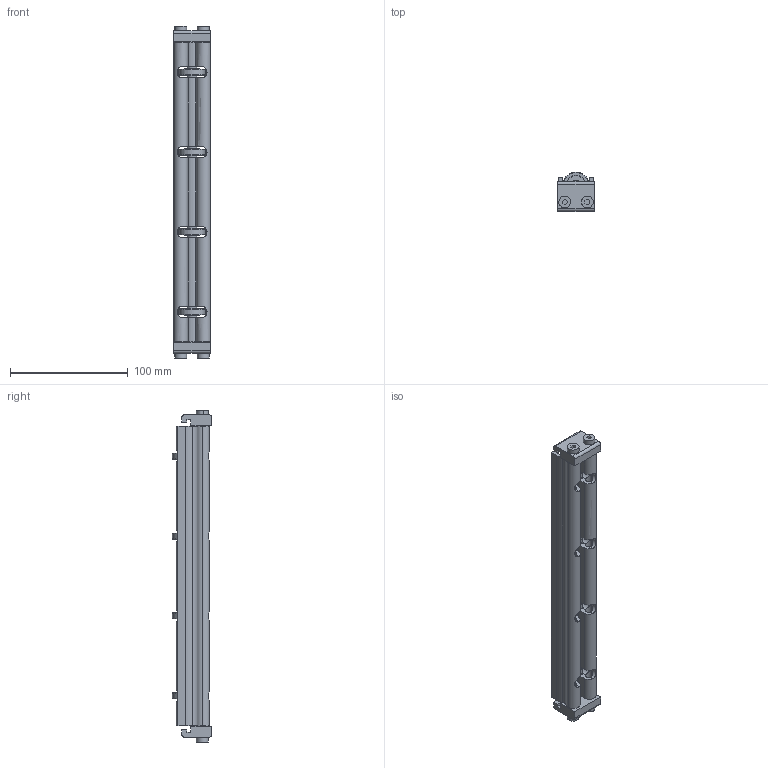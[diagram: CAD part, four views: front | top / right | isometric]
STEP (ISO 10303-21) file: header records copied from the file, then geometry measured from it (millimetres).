
FILE_DESCRIPTION((''),'2;1');
FILE_NAME('324910_ASM','2023-03-14T',('jenni.wallner'),(''),'PRO/ENGINEER BY PARAMETRIC TECHNOLOGY CORPORATION, 2012420','PRO/ENGINEER BY PARAMETRIC TECHNOLOGY CORPORATION, 2012420','');
FILE_SCHEMA(('CONFIG_CONTROL_DESIGN'));
Length unit declared in the file: inch
Products named in the file (7): X920693M; 240826; 2436WW_243610; 240827_CAE; 2410WW_CAE_241010; ASM0001_ASM; 324910_ASM
Assembly tree (13 placements, depth 3):
  324910_ASM
    ASM0001_ASM
      X920693M  x4
      240826  x4
      2436WW_243610
      240827_CAE  x2
      2410WW_CAE_241010
Bounding box: 30.88 x 33.34 x 281.41 mm (x, y, z)
Volume: 133374.8 mm3; surface area: 81067.6 mm2
Topology: 12 solids, 12 shells, 328 faces, 896 edges, 592 vertices
Faces by surface type: cylinder 146, plane 130, cone 36, torus 16
Entity records: 8038 total; most frequent: CARTESIAN_POINT 1958, DIRECTION 1284, ORIENTED_EDGE 1264, EDGE_CURVE 632, AXIS2_PLACEMENT_3D 490, VERTEX_POINT 420, VECTOR 304, LINE 304
